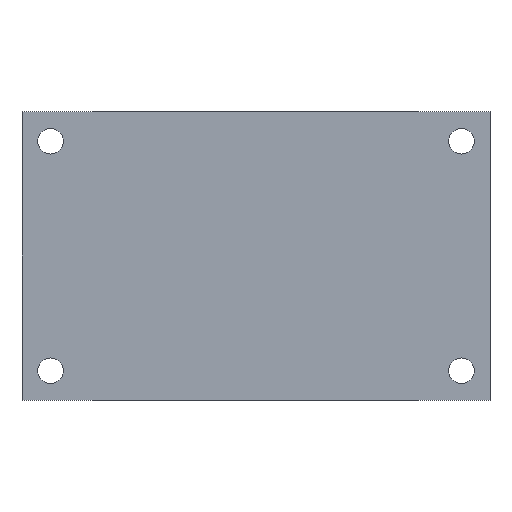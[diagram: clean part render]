
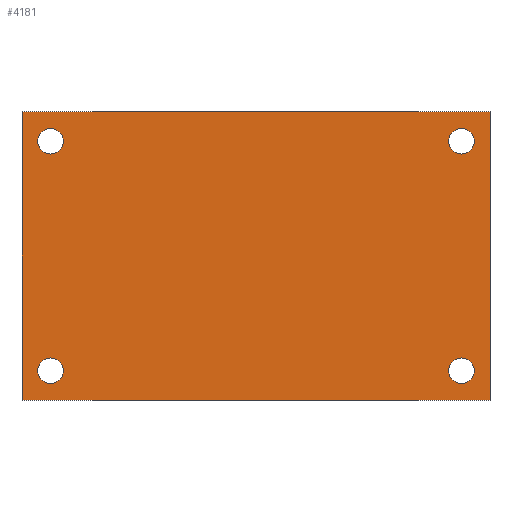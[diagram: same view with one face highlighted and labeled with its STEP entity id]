
A CAD part, front view. The second image highlights one B-rep face of the part: STEP entity #4181.
In plain terms, the highlighted planar face has unit normal (0, -1, 0).
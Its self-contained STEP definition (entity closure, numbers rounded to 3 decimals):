
#198=FACE_BOUND('',#717,.T.);
#199=FACE_BOUND('',#718,.T.);
#200=FACE_BOUND('',#719,.T.);
#201=FACE_BOUND('',#720,.T.);
#331=CIRCLE('',#4490,17.018);
#332=CIRCLE('',#4492,17.018);
#333=CIRCLE('',#4494,17.018);
#334=CIRCLE('',#4496,17.018);
#470=FACE_OUTER_BOUND('',#716,.T.);
#716=EDGE_LOOP('',(#3033,#3034,#3035,#3036));
#717=EDGE_LOOP('',(#3037));
#718=EDGE_LOOP('',(#3038));
#719=EDGE_LOOP('',(#3039));
#720=EDGE_LOOP('',(#3040));
#1061=LINE('',#6154,#1460);
#1064=LINE('',#6159,#1463);
#1066=LINE('',#6163,#1465);
#1068=LINE('',#6166,#1467);
#1460=VECTOR('',#5026,10.);
#1463=VECTOR('',#5031,10.);
#1465=VECTOR('',#5035,10.);
#1467=VECTOR('',#5039,10.);
#1829=VERTEX_POINT('',#6136);
#1830=VERTEX_POINT('',#6140);
#1831=VERTEX_POINT('',#6144);
#1832=VERTEX_POINT('',#6148);
#1833=VERTEX_POINT('',#6152);
#1834=VERTEX_POINT('',#6153);
#1835=VERTEX_POINT('',#6158);
#1836=VERTEX_POINT('',#6162);
#2276=EDGE_CURVE('',#1829,#1829,#331,.T.);
#2278=EDGE_CURVE('',#1830,#1830,#332,.T.);
#2280=EDGE_CURVE('',#1831,#1831,#333,.T.);
#2282=EDGE_CURVE('',#1832,#1832,#334,.T.);
#2283=EDGE_CURVE('',#1833,#1834,#1061,.T.);
#2286=EDGE_CURVE('',#1834,#1835,#1064,.T.);
#2288=EDGE_CURVE('',#1835,#1836,#1066,.T.);
#2290=EDGE_CURVE('',#1836,#1833,#1068,.T.);
#3033=ORIENTED_EDGE('',*,*,#2290,.T.);
#3034=ORIENTED_EDGE('',*,*,#2283,.T.);
#3035=ORIENTED_EDGE('',*,*,#2286,.T.);
#3036=ORIENTED_EDGE('',*,*,#2288,.T.);
#3037=ORIENTED_EDGE('',*,*,#2282,.F.);
#3038=ORIENTED_EDGE('',*,*,#2280,.F.);
#3039=ORIENTED_EDGE('',*,*,#2278,.F.);
#3040=ORIENTED_EDGE('',*,*,#2276,.F.);
#4032=PLANE('',#4502);
#4181=ADVANCED_FACE('',(#470,#198,#199,#200,#201),#4032,.F.);
#4490=AXIS2_PLACEMENT_3D('',#6138,#5007,#5008);
#4492=AXIS2_PLACEMENT_3D('',#6142,#5012,#5013);
#4494=AXIS2_PLACEMENT_3D('',#6146,#5017,#5018);
#4496=AXIS2_PLACEMENT_3D('',#6150,#5022,#5023);
#4502=AXIS2_PLACEMENT_3D('',#6168,#5042,#5043);
#5007=DIRECTION('center_axis',(0.,-1.,0.));
#5008=DIRECTION('ref_axis',(1.,0.,0.));
#5012=DIRECTION('center_axis',(0.,-1.,0.));
#5013=DIRECTION('ref_axis',(1.,0.,0.));
#5017=DIRECTION('center_axis',(0.,-1.,0.));
#5018=DIRECTION('ref_axis',(1.,0.,0.));
#5022=DIRECTION('center_axis',(0.,-1.,0.));
#5023=DIRECTION('ref_axis',(1.,0.,0.));
#5026=DIRECTION('',(0.,0.,1.));
#5031=DIRECTION('',(-1.,0.,0.));
#5035=DIRECTION('',(0.,0.,-1.));
#5039=DIRECTION('',(1.,0.,0.));
#5042=DIRECTION('center_axis',(0.,1.,0.));
#5043=DIRECTION('ref_axis',(1.,0.,0.));
#6136=CARTESIAN_POINT('',(-290.068,0.,-152.527));
#6138=CARTESIAN_POINT('Origin',(-273.05,0.,-152.527));
#6140=CARTESIAN_POINT('',(256.032,0.,152.527));
#6142=CARTESIAN_POINT('Origin',(273.05,0.,152.527));
#6144=CARTESIAN_POINT('',(256.032,0.,-152.527));
#6146=CARTESIAN_POINT('Origin',(273.05,0.,-152.527));
#6148=CARTESIAN_POINT('',(-290.068,0.,152.527));
#6150=CARTESIAN_POINT('Origin',(-273.05,0.,152.527));
#6152=CARTESIAN_POINT('',(311.023,0.,-192.024));
#6153=CARTESIAN_POINT('',(311.023,0.,192.024));
#6154=CARTESIAN_POINT('',(311.023,0.,-192.024));
#6158=CARTESIAN_POINT('',(-311.023,0.,192.024));
#6159=CARTESIAN_POINT('',(311.023,0.,192.024));
#6162=CARTESIAN_POINT('',(-311.023,0.,-192.024));
#6163=CARTESIAN_POINT('',(-311.023,0.,192.024));
#6166=CARTESIAN_POINT('',(-311.023,0.,-192.024));
#6168=CARTESIAN_POINT('Origin',(0.,0.,0.));
